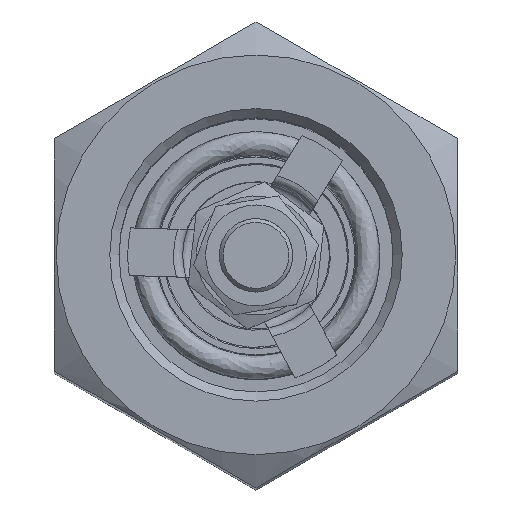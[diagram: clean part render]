
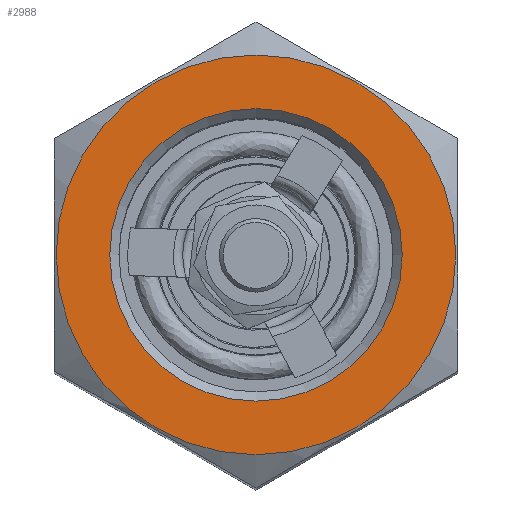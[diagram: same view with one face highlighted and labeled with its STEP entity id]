
A CAD part, top view. The second image highlights one B-rep face of the part: STEP entity #2988.
In plain terms, the highlighted planar face has unit normal (0, 0, 1).
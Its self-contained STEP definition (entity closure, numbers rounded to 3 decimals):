
#457=PLANE('',#4418);
#578=ORIENTED_EDGE('',*,*,#1418,.T.);
#579=ORIENTED_EDGE('',*,*,#1411,.F.);
#1411=EDGE_CURVE('',#1840,#1840,#2148,.T.);
#1418=EDGE_CURVE('',#1847,#1847,#2149,.T.);
#1840=VERTEX_POINT('',#5642);
#1847=VERTEX_POINT('',#5687);
#2148=CIRCLE('',#4417,10.9);
#2149=CIRCLE('',#4419,7.975);
#2338=EDGE_LOOP('',(#578));
#2339=EDGE_LOOP('',(#579));
#2637=FACE_BOUND('',#2338,.T.);
#2638=FACE_BOUND('',#2339,.T.);
#2988=ADVANCED_FACE('',(#2637,#2638),#457,.F.);
#4417=AXIS2_PLACEMENT_3D('',#5641,#4811,#4812);
#4418=AXIS2_PLACEMENT_3D('',#5685,#4813,#4814);
#4419=AXIS2_PLACEMENT_3D('',#5686,#4815,#4816);
#4811=DIRECTION('',(0.,0.,-1.));
#4812=DIRECTION('',(0.866,0.5,0.));
#4813=DIRECTION('',(0.,0.,-1.));
#4814=DIRECTION('',(-1.,0.,0.));
#4815=DIRECTION('',(0.,0.,-1.));
#4816=DIRECTION('',(-1.,0.,0.));
#5641=CARTESIAN_POINT('',(0.,0.,57.261));
#5642=CARTESIAN_POINT('',(9.44,5.45,57.261));
#5685=CARTESIAN_POINT('',(0.,0.,57.261));
#5686=CARTESIAN_POINT('',(0.,0.,57.261));
#5687=CARTESIAN_POINT('',(-7.975,0.,57.261));
